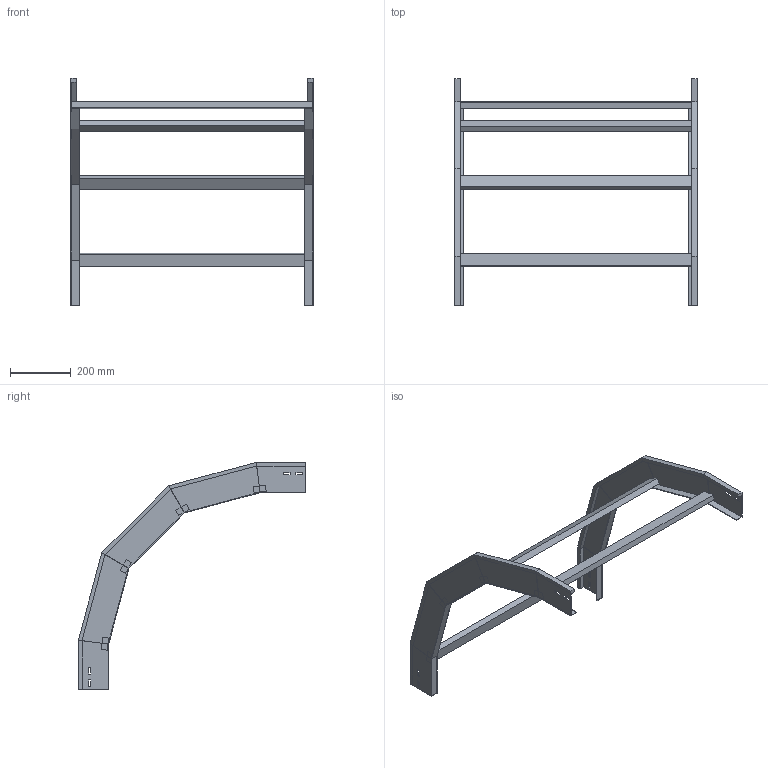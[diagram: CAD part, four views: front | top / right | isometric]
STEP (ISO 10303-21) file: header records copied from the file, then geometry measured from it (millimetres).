
FILE_DESCRIPTION (( 'STEP AP214' ), '1' );
FILE_NAME ('33B5D800.step', '2025-02-21T15:01:35', ( '' ), ( '' ), 'SwSTEP 2.0', 'SolidWorks 2023', '' );
FILE_SCHEMA (( 'AUTOMOTIVE_DESIGN' ));
Length unit declared in the file: millimetre
Products named in the file (3): TRAVERSINO_800; LONGH.DISCESA_90°_H100_R500; 33B5D800
Assembly tree (6 placements, depth 2):
  33B5D800
    LONGH.DISCESA_90°_H100_R500  x2
    TRAVERSINO_800  x4
Bounding box: 800 x 750.35 x 750.35 mm (x, y, z)
Volume: 3618468.1 mm3; surface area: 1050403.4 mm2
Topology: 6 solids, 6 shells, 140 faces, 320 edges, 192 vertices
Faces by surface type: plane 140
Entity records: 1872 total; most frequent: CARTESIAN_POINT 309, ORIENTED_EDGE 296, DIRECTION 294, VECTOR 148, LINE 148, EDGE_CURVE 148, VERTEX_POINT 88, AXIS2_PLACEMENT_3D 73
